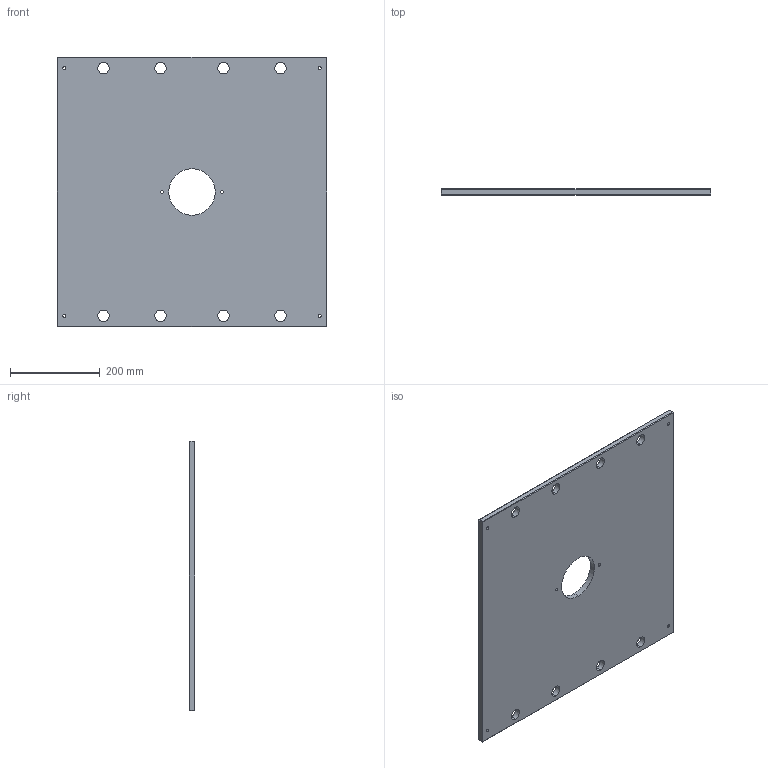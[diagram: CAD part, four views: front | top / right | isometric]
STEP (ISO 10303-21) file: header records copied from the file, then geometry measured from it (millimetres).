
FILE_DESCRIPTION (( 'STEP AP214' ), '1' );
FILE_NAME ('ME-0619-CH-2424.STEP', '2020-02-13T10:33:01', ( '' ), ( '' ), 'SwSTEP 2.0', 'SolidWorks 2018', '' );
FILE_SCHEMA (( 'AUTOMOTIVE_DESIGN' ));
Length unit declared in the file: inch
Products named in the file (1): ME-0619-CH-2424
Bounding box: 600.08 x 12.7 x 600.08 mm (x, y, z)
Volume: 4407534 mm3; surface area: 735486.6 mm2
Topology: 1 solids, 1 shells, 68 faces, 162 edges, 96 vertices
Faces by surface type: cylinder 30, plane 26, cone 12
Entity records: 2050 total; most frequent: DIRECTION 372, CARTESIAN_POINT 327, ORIENTED_EDGE 324, EDGE_CURVE 162, AXIS2_PLACEMENT_3D 141, EDGE_LOOP 98, VERTEX_POINT 96, LINE 90
